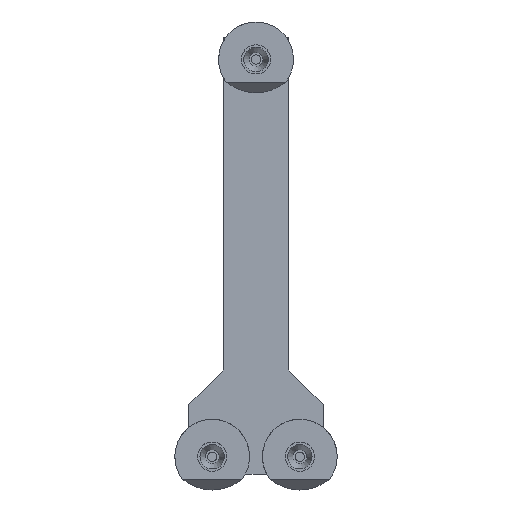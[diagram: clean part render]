
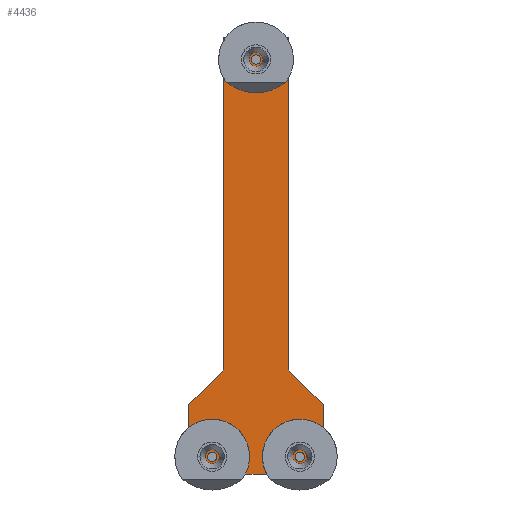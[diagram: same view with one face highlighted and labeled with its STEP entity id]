
A CAD part, top view. The second image highlights one B-rep face of the part: STEP entity #4436.
In plain terms, the highlighted planar face has unit normal (0, 0, 1).
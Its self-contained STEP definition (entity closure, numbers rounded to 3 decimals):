
#56=FACE_BOUND('',#356,.T.);
#57=FACE_BOUND('',#357,.T.);
#58=FACE_BOUND('',#358,.T.);
#80=CIRCLE('',#4735,0.8);
#81=CIRCLE('',#4736,0.8);
#84=CIRCLE('',#4740,0.8);
#85=CIRCLE('',#4741,0.8);
#88=CIRCLE('',#4745,0.8);
#89=CIRCLE('',#4746,0.8);
#122=FACE_OUTER_BOUND('',#355,.T.);
#355=EDGE_LOOP('',(#3014,#3015,#3016,#3017,#3018,#3019,#3020,#3021));
#356=EDGE_LOOP('',(#3022,#3023));
#357=EDGE_LOOP('',(#3024,#3025));
#358=EDGE_LOOP('',(#3026,#3027));
#594=LINE('',#6277,#1217);
#598=LINE('',#6285,#1221);
#601=LINE('',#6291,#1224);
#602=LINE('',#6293,#1225);
#603=LINE('',#6295,#1226);
#604=LINE('',#6297,#1227);
#605=LINE('',#6299,#1228);
#606=LINE('',#6300,#1229);
#1217=VECTOR('',#5121,10.);
#1221=VECTOR('',#5127,10.);
#1224=VECTOR('',#5132,10.);
#1225=VECTOR('',#5133,10.);
#1226=VECTOR('',#5134,10.);
#1227=VECTOR('',#5135,10.);
#1228=VECTOR('',#5136,10.);
#1229=VECTOR('',#5137,10.);
#1840=VERTEX_POINT('',#6233);
#1841=VERTEX_POINT('',#6234);
#1846=VERTEX_POINT('',#6247);
#1847=VERTEX_POINT('',#6248);
#1852=VERTEX_POINT('',#6261);
#1853=VERTEX_POINT('',#6262);
#1858=VERTEX_POINT('',#6275);
#1859=VERTEX_POINT('',#6276);
#1862=VERTEX_POINT('',#6284);
#1864=VERTEX_POINT('',#6290);
#1865=VERTEX_POINT('',#6292);
#1866=VERTEX_POINT('',#6294);
#1867=VERTEX_POINT('',#6296);
#1868=VERTEX_POINT('',#6298);
#2268=EDGE_CURVE('',#1840,#1841,#80,.T.);
#2269=EDGE_CURVE('',#1841,#1840,#81,.T.);
#2275=EDGE_CURVE('',#1846,#1847,#84,.T.);
#2276=EDGE_CURVE('',#1847,#1846,#85,.T.);
#2282=EDGE_CURVE('',#1852,#1853,#88,.T.);
#2283=EDGE_CURVE('',#1853,#1852,#89,.T.);
#2289=EDGE_CURVE('',#1858,#1859,#594,.T.);
#2293=EDGE_CURVE('',#1859,#1862,#598,.T.);
#2296=EDGE_CURVE('',#1858,#1864,#601,.T.);
#2297=EDGE_CURVE('',#1864,#1865,#602,.T.);
#2298=EDGE_CURVE('',#1865,#1866,#603,.T.);
#2299=EDGE_CURVE('',#1867,#1866,#604,.T.);
#2300=EDGE_CURVE('',#1868,#1867,#605,.T.);
#2301=EDGE_CURVE('',#1862,#1868,#606,.T.);
#3014=ORIENTED_EDGE('',*,*,#2289,.F.);
#3015=ORIENTED_EDGE('',*,*,#2296,.T.);
#3016=ORIENTED_EDGE('',*,*,#2297,.T.);
#3017=ORIENTED_EDGE('',*,*,#2298,.T.);
#3018=ORIENTED_EDGE('',*,*,#2299,.F.);
#3019=ORIENTED_EDGE('',*,*,#2300,.F.);
#3020=ORIENTED_EDGE('',*,*,#2301,.F.);
#3021=ORIENTED_EDGE('',*,*,#2293,.F.);
#3022=ORIENTED_EDGE('',*,*,#2268,.T.);
#3023=ORIENTED_EDGE('',*,*,#2269,.T.);
#3024=ORIENTED_EDGE('',*,*,#2275,.T.);
#3025=ORIENTED_EDGE('',*,*,#2276,.T.);
#3026=ORIENTED_EDGE('',*,*,#2282,.T.);
#3027=ORIENTED_EDGE('',*,*,#2283,.T.);
#4210=PLANE('',#4751);
#4436=ADVANCED_FACE('',(#122,#56,#57,#58),#4210,.T.);
#4735=AXIS2_PLACEMENT_3D('',#6235,#5082,#5083);
#4736=AXIS2_PLACEMENT_3D('',#6236,#5084,#5085);
#4740=AXIS2_PLACEMENT_3D('',#6249,#5095,#5096);
#4741=AXIS2_PLACEMENT_3D('',#6250,#5097,#5098);
#4745=AXIS2_PLACEMENT_3D('',#6263,#5108,#5109);
#4746=AXIS2_PLACEMENT_3D('',#6264,#5110,#5111);
#4751=AXIS2_PLACEMENT_3D('',#6289,#5130,#5131);
#5082=DIRECTION('center_axis',(0.,0.,
-1.));
#5083=DIRECTION('ref_axis',(1.,0.,0.));
#5084=DIRECTION('center_axis',(0.,0.,
-1.));
#5085=DIRECTION('ref_axis',(1.,0.,0.));
#5095=DIRECTION('center_axis',(0.,0.,
-1.));
#5096=DIRECTION('ref_axis',(1.,0.,0.));
#5097=DIRECTION('center_axis',(0.,0.,
-1.));
#5098=DIRECTION('ref_axis',(1.,0.,0.));
#5108=DIRECTION('center_axis',(0.,0.,
-1.));
#5109=DIRECTION('ref_axis',(1.,0.,0.));
#5110=DIRECTION('center_axis',(0.,0.,
-1.));
#5111=DIRECTION('ref_axis',(1.,0.,0.));
#5121=DIRECTION('',(0.707,-0.707,0.));
#5127=DIRECTION('',(0.,-1.,0.));
#5130=DIRECTION('center_axis',(0.,0.,
1.));
#5131=DIRECTION('ref_axis',(0.,-1.,0.));
#5132=DIRECTION('',(0.,1.,0.));
#5133=DIRECTION('',(-1.,0.,0.));
#5134=DIRECTION('',(0.,-1.,0.));
#5135=DIRECTION('',(0.707,0.707,0.));
#5136=DIRECTION('',(0.,1.,0.));
#5137=DIRECTION('',(-1.,0.,0.));
#6233=CARTESIAN_POINT('',(15.8,-5.,1.6));
#6234=CARTESIAN_POINT('',(14.2,-5.,1.6));
#6235=CARTESIAN_POINT('Origin',(15.,-5.,1.6));
#6236=CARTESIAN_POINT('Origin',(15.,-5.,1.6));
#6247=CARTESIAN_POINT('',(0.8,-5.,1.6));
#6248=CARTESIAN_POINT('',(-0.8,-5.,1.6));
#6249=CARTESIAN_POINT('Origin',(0.,-5.,1.6));
#6250=CARTESIAN_POINT('Origin',(0.,-5.,1.6));
#6261=CARTESIAN_POINT('',(8.3,63.,1.6));
#6262=CARTESIAN_POINT('',(6.7,63.,1.6));
#6263=CARTESIAN_POINT('Origin',(7.5,63.,1.6));
#6264=CARTESIAN_POINT('Origin',(7.5,63.,1.6));
#6275=CARTESIAN_POINT('',(13.05,9.852,1.6));
#6276=CARTESIAN_POINT('',(19.,3.902,1.6));
#6277=CARTESIAN_POINT('',(-4.225,27.127,1.6));
#6284=CARTESIAN_POINT('',(19.,-8.,1.6));
#6285=CARTESIAN_POINT('',(19.,0.,1.6));
#6289=CARTESIAN_POINT('Origin',(0.,71.852,
1.6));
#6290=CARTESIAN_POINT('',(13.05,66.852,1.6));
#6291=CARTESIAN_POINT('',(13.05,56.352,1.6));
#6292=CARTESIAN_POINT('',(1.95,66.852,1.6));
#6293=CARTESIAN_POINT('',(3.75,66.852,1.6));
#6294=CARTESIAN_POINT('',(1.95,9.852,1.6));
#6295=CARTESIAN_POINT('',(1.95,56.352,1.6));
#6296=CARTESIAN_POINT('',(-4.,3.902,1.6));
#6297=CARTESIAN_POINT('',(15.475,23.377,1.6));
#6298=CARTESIAN_POINT('',(-4.,-8.,1.6));
#6299=CARTESIAN_POINT('',(-4.,12.148,1.6));
#6300=CARTESIAN_POINT('',(3.75,-8.,1.6));
